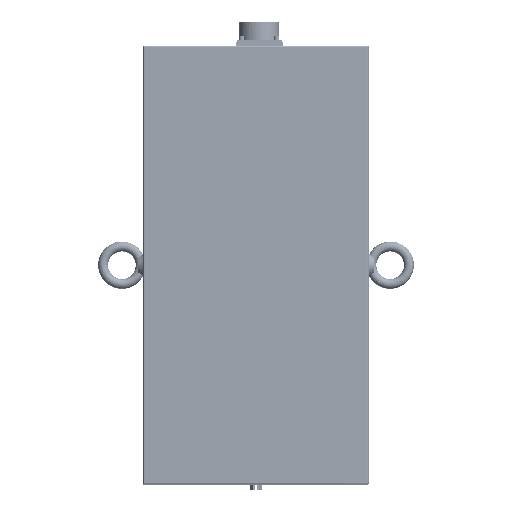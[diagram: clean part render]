
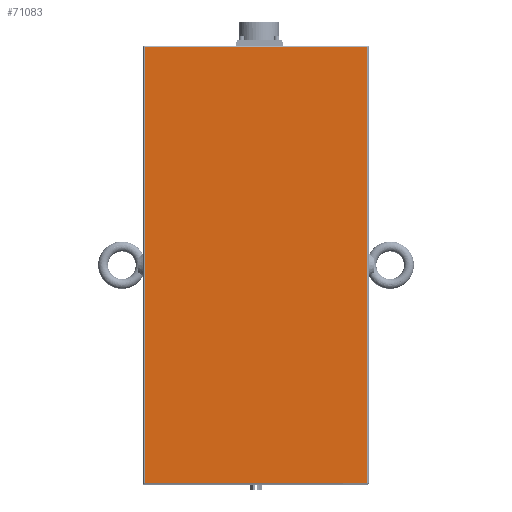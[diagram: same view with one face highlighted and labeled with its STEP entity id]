
A CAD part, top view. The second image highlights one B-rep face of the part: STEP entity #71083.
In plain terms, the highlighted planar face has unit normal (0, 0, 1).
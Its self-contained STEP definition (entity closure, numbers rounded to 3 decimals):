
#71044=CARTESIAN_POINT('',(-135.,145.,31.5));
#71045=DIRECTION('',(-1.,0.,0.));
#71046=DIRECTION('',(0.,0.,1.));
#71047=AXIS2_PLACEMENT_3D('',#71044,#71046,#71045);
#71048=PLANE('',#71047);
#71049=CARTESIAN_POINT('',(141.,-131.,31.5));
#71050=VERTEX_POINT('',#71049);
#71051=CARTESIAN_POINT('',(141.,421.,31.5));
#71052=VERTEX_POINT('',#71051);
#71053=CARTESIAN_POINT('',(141.,-131.,31.5));
#71054=DIRECTION('',(0.,1.,0.));
#71055=VECTOR('',#71054,552.);
#71056=LINE('',#71053,#71055);
#71057=EDGE_CURVE('',#71050,#71052,#71056,.T.);
#71058=ORIENTED_EDGE('E4582',*,*,#71057,.T.);
#71059=CARTESIAN_POINT('',(-141.,421.,31.5));
#71060=VERTEX_POINT('',#71059);
#71061=CARTESIAN_POINT('',(141.,421.,31.5));
#71062=DIRECTION('',(-1.,0.,0.));
#71063=VECTOR('',#71062,282.);
#71064=LINE('',#71061,#71063);
#71065=EDGE_CURVE('',#71052,#71060,#71064,.T.);
#71066=ORIENTED_EDGE('E4583',*,*,#71065,.T.);
#71067=CARTESIAN_POINT('',(-141.,-131.,31.5));
#71068=VERTEX_POINT('',#71067);
#71069=CARTESIAN_POINT('',(-141.,421.,31.5));
#71070=DIRECTION('',(0.,-1.,0.));
#71071=VECTOR('',#71070,552.);
#71072=LINE('',#71069,#71071);
#71073=EDGE_CURVE('',#71060,#71068,#71072,.T.);
#71074=ORIENTED_EDGE('E4584',*,*,#71073,.T.);
#71075=CARTESIAN_POINT('',(-141.,-131.,31.5));
#71076=DIRECTION('',(1.,0.,0.));
#71077=VECTOR('',#71076,282.);
#71078=LINE('',#71075,#71077);
#71079=EDGE_CURVE('',#71068,#71050,#71078,.T.);
#71080=ORIENTED_EDGE('E4585',*,*,#71079,.T.);
#71081=EDGE_LOOP('',(#71058,#71066,#71074,#71080));
#71082=FACE_OUTER_BOUND('',#71081,.T.);
#71083=ADVANCED_FACE('F1893',(#71082),#71048,.T.);
